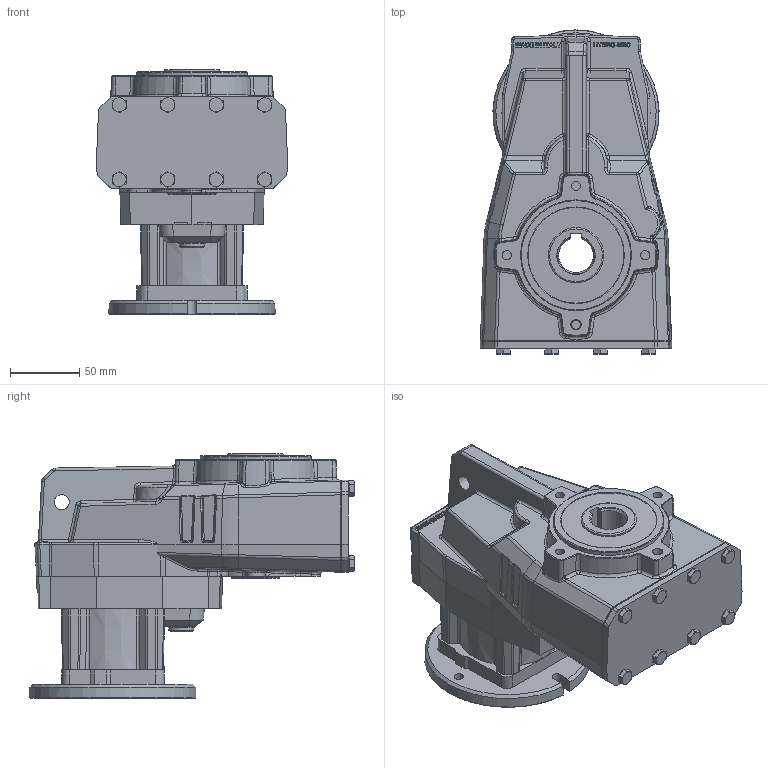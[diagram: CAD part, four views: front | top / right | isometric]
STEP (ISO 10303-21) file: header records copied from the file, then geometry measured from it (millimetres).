
FILE_DESCRIPTION( ( 'Unknown' ), '1' );
FILE_NAME( 'E:/services/configuratordownloads/customers/HYDROMEC/FLACH/download/2729C3ADC86ED95C1C8DE7308476BD0/STEP/2729C3ADC86ED95C1C8DE7308476BD0.3d.stp', 'Unknown', ( 'Unknown' ), ( 'Unknown' ), 'PSStep 10.1', 'Unknown', ' ' );
FILE_SCHEMA( ( 'AUTOMOTIVE_DESIGN { 1 0 10303 214 1 1 1 1 }' ) );
Length unit declared in the file: millimetre
Products named in the file (1): F308800ST
Bounding box: 138 x 234.19 x 176.5 mm (x, y, z)
Volume: 2258805.3 mm3; surface area: 177298.7 mm2
Topology: 1 solids, 29 shells, 1247 faces, 2928 edges, 1827 vertices
Faces by surface type: plane 583, cylinder 284, bspline 211, cone 130, torus 31, sphere 8
Full cylindrical faces by diameter (mm): 4.917 x17, 6 x8, 6.5 x8, 6.647 x4, 7 x3, 7.15 x4, 8.9 x8, 10 x6, 11 x1, 11.5 x3, 13.5 x1, 18 x1, 19 x1, 20 x1, 35 x2, 40 x1, 47 x2, 80 x2
Entity records: 55730 total; most frequent: CARTESIAN_POINT 19932, ORIENTED_EDGE 5438, DIRECTION 4677, EDGE_CURVE 2719, VERTEX_POINT 1761, AXIS2_PLACEMENT_3D 1644, EDGE_LOOP 1508, LINE 1389
